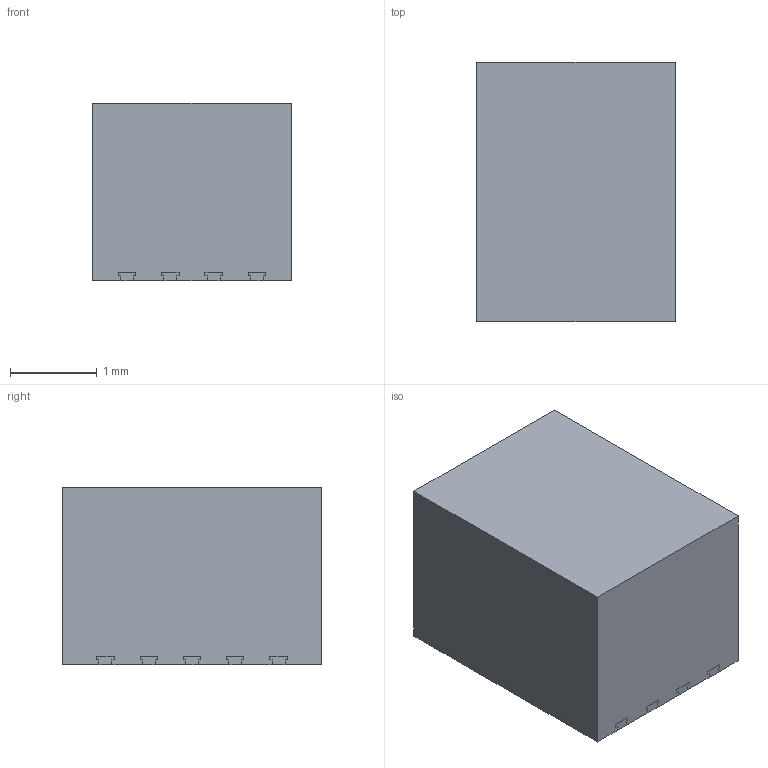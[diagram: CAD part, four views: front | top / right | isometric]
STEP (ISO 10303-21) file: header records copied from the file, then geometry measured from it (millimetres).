
FILE_DESCRIPTION((''),'2;1');
FILE_NAME('RCF0015A_ASM','2023-10-13T08:06:54',('a0412086'),(''),'CREO PARAMETRIC BY PTC INC, 2018500','CREO PARAMETRIC BY PTC INC, 2018500','');
FILE_SCHEMA(('CONFIG_CONTROL_DESIGN','SHAPE_APPEARANCE_LAYERS_GROUPS'));
Length unit declared in the file: millimetre
Products named in the file (3): MOLD; FRAME; RCF0015A_ASM
Assembly tree (2 placements, depth 2):
  RCF0015A_ASM
    MOLD
    FRAME
Bounding box: 2.3 x 3 x 2.05 mm (x, y, z)
Volume: 14.1 mm3; surface area: 45.5 mm2
Topology: 16 solids, 16 shells, 781 faces, 2244 edges, 1496 vertices
Faces by surface type: plane 517, cylinder 264
Entity records: 32617 total; most frequent: CARTESIAN_POINT 4526, ORIENTED_EDGE 4488, DIRECTION 4344, PRESENTATION_STYLE_ASSIGNMENT 2278, STYLED_ITEM 2260, CURVE_STYLE 2244, EDGE_CURVE 2244, VECTOR 1716
